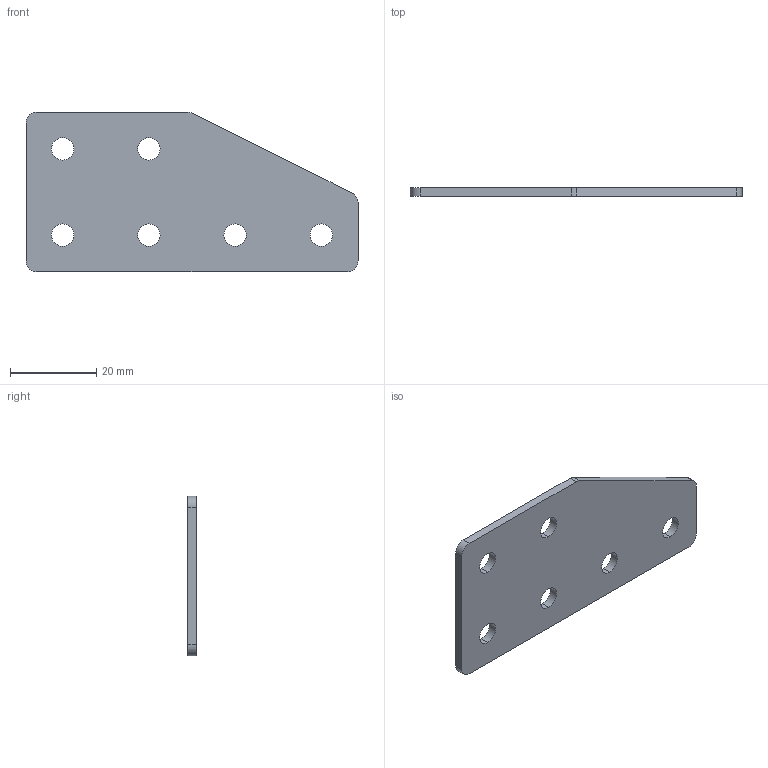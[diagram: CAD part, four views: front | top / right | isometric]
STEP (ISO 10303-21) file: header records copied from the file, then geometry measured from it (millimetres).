
FILE_DESCRIPTION (( 'STEP AP203' ), '1' );
FILE_NAME ('ﾃ-6-ﾓ-20.STEP', '2016-07-20T07:11:06', ( '' ), ( '' ), 'SwSTEP 2.0', 'SolidWorks 2014', '' );
FILE_SCHEMA (( 'CONFIG_CONTROL_DESIGN' ));
Length unit declared in the file: millimetre
Products named in the file (1): ﾃ-6-ﾓ-20
Bounding box: 77 x 2 x 37 mm (x, y, z)
Surface area: 5294.7 mm2 (no closed solid volume)
Topology: 0 solids, 1 shells, 24 faces, 66 edges, 44 vertices
Faces by surface type: cylinder 17, plane 7
Entity records: 885 total; most frequent: DIRECTION 150, CARTESIAN_POINT 135, ORIENTED_EDGE 132, EDGE_CURVE 66, AXIS2_PLACEMENT_3D 59, VERTEX_POINT 44, EDGE_LOOP 36, CIRCLE 34
